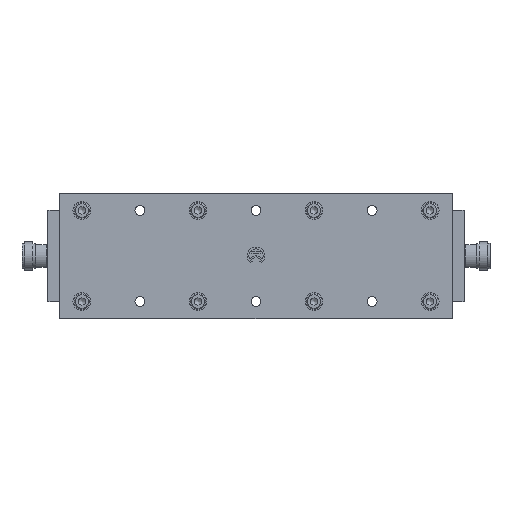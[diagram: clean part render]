
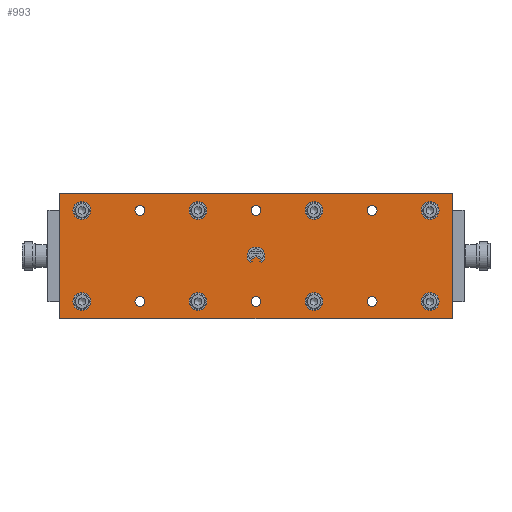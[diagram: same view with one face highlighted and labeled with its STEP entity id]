
A CAD part, top view. The second image highlights one B-rep face of the part: STEP entity #993.
In plain terms, the highlighted planar face has unit normal (0, 0, 1).
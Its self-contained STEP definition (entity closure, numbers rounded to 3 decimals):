
#993=ADVANCED_FACE('',(#2002,#2004,#2006,#2008,#2010,#2012,#2014,#2016,#2018,#2020,
#2022,#2024,#2026,#2028,#2030,#2032),#2034,.T.);
#2002=FACE_BOUND('',#2003,.T.);
#2003=EDGE_LOOP('',(#4047,#4048,#4049,#4050));
#2004=FACE_BOUND('',#2005,.T.);
#2005=EDGE_LOOP('',(#4051,#4052,#4053,#4054,#4055,#4056,#4057));
#2006=FACE_BOUND('',#2007,.T.);
#2007=EDGE_LOOP('',(#4058));
#2008=FACE_BOUND('',#2009,.T.);
#2009=EDGE_LOOP('',(#4059));
#2010=FACE_BOUND('',#2011,.T.);
#2011=EDGE_LOOP('',(#4060));
#2012=FACE_BOUND('',#2013,.T.);
#2013=EDGE_LOOP('',(#4061));
#2014=FACE_BOUND('',#2015,.T.);
#2015=EDGE_LOOP('',(#4062));
#2016=FACE_BOUND('',#2017,.T.);
#2017=EDGE_LOOP('',(#4063));
#2018=FACE_BOUND('',#2019,.T.);
#2019=EDGE_LOOP('',(#4064));
#2020=FACE_BOUND('',#2021,.T.);
#2021=EDGE_LOOP('',(#4065));
#2022=FACE_BOUND('',#2023,.T.);
#2023=EDGE_LOOP('',(#4066));
#2024=FACE_BOUND('',#2025,.T.);
#2025=EDGE_LOOP('',(#4067));
#2026=FACE_BOUND('',#2027,.T.);
#2027=EDGE_LOOP('',(#4068));
#2028=FACE_BOUND('',#2029,.T.);
#2029=EDGE_LOOP('',(#4069));
#2030=FACE_BOUND('',#2031,.T.);
#2031=EDGE_LOOP('',(#4070));
#2032=FACE_BOUND('',#2033,.T.);
#2033=EDGE_LOOP('',(#4071));
#2034=PLANE('',#2035);
#2035=AXIS2_PLACEMENT_3D('',#2036,#2037,#2038);
#2036=CARTESIAN_POINT('',(-35.,-110.,12.5));
#2037=DIRECTION('',(0.,0.,1.));
#2038=DIRECTION('',(1.,0.,0.));
#4047=ORIENTED_EDGE('',*,*,#4856,.F.);
#4048=ORIENTED_EDGE('',*,*,#4857,.T.);
#4049=ORIENTED_EDGE('',*,*,#4858,.T.);
#4050=ORIENTED_EDGE('',*,*,#4859,.F.);
#4051=ORIENTED_EDGE('',*,*,#4860,.T.);
#4052=ORIENTED_EDGE('',*,*,#4861,.T.);
#4053=ORIENTED_EDGE('',*,*,#4862,.T.);
#4054=ORIENTED_EDGE('',*,*,#4863,.T.);
#4055=ORIENTED_EDGE('',*,*,#4864,.T.);
#4056=ORIENTED_EDGE('',*,*,#4865,.T.);
#4057=ORIENTED_EDGE('',*,*,#4866,.T.);
#4058=ORIENTED_EDGE('',*,*,#4867,.T.);
#4059=ORIENTED_EDGE('',*,*,#4868,.T.);
#4060=ORIENTED_EDGE('',*,*,#4869,.T.);
#4061=ORIENTED_EDGE('',*,*,#4870,.T.);
#4062=ORIENTED_EDGE('',*,*,#4871,.T.);
#4063=ORIENTED_EDGE('',*,*,#4872,.T.);
#4064=ORIENTED_EDGE('',*,*,#4873,.T.);
#4065=ORIENTED_EDGE('',*,*,#4874,.T.);
#4066=ORIENTED_EDGE('',*,*,#4875,.T.);
#4067=ORIENTED_EDGE('',*,*,#4876,.T.);
#4068=ORIENTED_EDGE('',*,*,#4877,.T.);
#4069=ORIENTED_EDGE('',*,*,#4878,.T.);
#4070=ORIENTED_EDGE('',*,*,#4879,.T.);
#4071=ORIENTED_EDGE('',*,*,#4880,.T.);
#4856=EDGE_CURVE('',#5414,#5415,#5416,.T.);
#4857=EDGE_CURVE('',#5414,#5417,#5418,.T.);
#4858=EDGE_CURVE('',#5417,#5419,#5420,.T.);
#4859=EDGE_CURVE('',#5415,#5419,#5421,.T.);
#4860=EDGE_CURVE('',#5422,#5423,#5424,.F.);
#4861=EDGE_CURVE('',#5423,#5425,#5426,.F.);
#4862=EDGE_CURVE('',#5425,#5427,#5428,.F.);
#4863=EDGE_CURVE('',#5427,#5429,#5430,.F.);
#4864=EDGE_CURVE('',#5429,#5431,#5432,.F.);
#4865=EDGE_CURVE('',#5431,#5433,#5434,.F.);
#4866=EDGE_CURVE('',#5433,#5422,#5435,.F.);
#4867=EDGE_CURVE('',#5436,#5436,#5437,.F.);
#4868=EDGE_CURVE('',#5438,#5438,#5439,.F.);
#4869=EDGE_CURVE('',#5440,#5440,#5441,.F.);
#4870=EDGE_CURVE('',#5442,#5442,#5443,.F.);
#4871=EDGE_CURVE('',#5444,#5444,#5445,.F.);
#4872=EDGE_CURVE('',#5446,#5446,#5447,.F.);
#4873=EDGE_CURVE('',#5448,#5448,#5449,.F.);
#4874=EDGE_CURVE('',#5450,#5450,#5451,.F.);
#4875=EDGE_CURVE('',#5452,#5452,#5453,.F.);
#4876=EDGE_CURVE('',#5454,#5454,#5455,.F.);
#4877=EDGE_CURVE('',#5456,#5456,#5457,.F.);
#4878=EDGE_CURVE('',#5458,#5458,#5459,.F.);
#4879=EDGE_CURVE('',#5460,#5460,#5461,.F.);
#4880=EDGE_CURVE('',#5462,#5462,#5463,.F.);
#5414=VERTEX_POINT('',#6533);
#5415=VERTEX_POINT('',#6534);
#5416=LINE('',#6535,#6536);
#5417=VERTEX_POINT('',#6538);
#5418=LINE('',#6539,#6540);
#5419=VERTEX_POINT('',#6542);
#5420=LINE('',#6543,#6544);
#5421=LINE('',#6546,#6547);
#5422=VERTEX_POINT('',#6549);
#5423=VERTEX_POINT('',#6550);
#5424=CIRCLE('',#6551,4.);
#5425=VERTEX_POINT('',#6555);
#5426=LINE('',#6556,#6557);
#5427=VERTEX_POINT('',#6559);
#5428=CIRCLE('',#6560,5.);
#5429=VERTEX_POINT('',#6564);
#5430=LINE('',#6565,#6566);
#5431=VERTEX_POINT('',#6568);
#5432=CIRCLE('',#6569,4.);
#5433=VERTEX_POINT('',#6573);
#5434=LINE('',#6574,#6575);
#5435=LINE('',#6577,#6578);
#5436=VERTEX_POINT('',#6580);
#5437=CIRCLE('',#6581,5.);
#5438=VERTEX_POINT('',#6585);
#5439=CIRCLE('',#6586,5.);
#5440=VERTEX_POINT('',#6590);
#5441=CIRCLE('',#6591,5.);
#5442=VERTEX_POINT('',#6595);
#5443=CIRCLE('',#6596,5.);
#5444=VERTEX_POINT('',#6600);
#5445=CIRCLE('',#6601,5.);
#5446=VERTEX_POINT('',#6605);
#5447=CIRCLE('',#6606,5.);
#5448=VERTEX_POINT('',#6610);
#5449=CIRCLE('',#6611,5.);
#5450=VERTEX_POINT('',#6615);
#5451=CIRCLE('',#6616,5.);
#5452=VERTEX_POINT('',#6620);
#5453=CIRCLE('',#6621,2.75);
#5454=VERTEX_POINT('',#6625);
#5455=CIRCLE('',#6626,2.75);
#5456=VERTEX_POINT('',#6630);
#5457=CIRCLE('',#6631,2.75);
#5458=VERTEX_POINT('',#6635);
#5459=CIRCLE('',#6636,2.75);
#5460=VERTEX_POINT('',#6640);
#5461=CIRCLE('',#6641,2.75);
#5462=VERTEX_POINT('',#6645);
#5463=CIRCLE('',#6646,2.75);
#6533=CARTESIAN_POINT('',(-34.9,-109.9,12.5));
#6534=CARTESIAN_POINT('',(-34.9,109.9,12.5));
#6535=CARTESIAN_POINT('',(-34.9,-109.9,12.5));
#6536=VECTOR('',#6537,1.);
#6537=DIRECTION('',(0.,1.,0.));
#6538=CARTESIAN_POINT('',(34.9,-109.9,12.5));
#6539=CARTESIAN_POINT('',(-34.9,-109.9,12.5));
#6540=VECTOR('',#6541,1.);
#6541=DIRECTION('',(1.,0.,0.));
#6542=CARTESIAN_POINT('',(34.9,109.9,12.5));
#6543=CARTESIAN_POINT('',(34.9,-109.9,12.5));
#6544=VECTOR('',#6545,1.);
#6545=DIRECTION('',(0.,1.,0.));
#6546=CARTESIAN_POINT('',(-34.9,109.9,12.5));
#6547=VECTOR('',#6548,1.);
#6548=DIRECTION('',(1.,0.,0.));
#6549=CARTESIAN_POINT('',(-2.417,3.187,12.5));
#6550=CARTESIAN_POINT('',(-3.345,2.194,12.5));
#6551=AXIS2_PLACEMENT_3D('',#6552,#6553,#6554);
#6552=CARTESIAN_POINT('',(0.,0.,12.5));
#6553=DIRECTION('',(0.,0.,-1.));
#6554=DIRECTION('',(-0.836,0.548,0.));
#6555=CARTESIAN_POINT('',(-3.891,3.14,12.5));
#6556=CARTESIAN_POINT('',(-3.891,3.14,12.5));
#6557=VECTOR('',#6558,1.);
#6558=DIRECTION('',(0.5,-0.866,0.));
#6559=CARTESIAN_POINT('',(-3.891,-3.14,12.5));
#6560=AXIS2_PLACEMENT_3D('',#6561,#6562,#6563);
#6561=CARTESIAN_POINT('',(0.,0.,12.5));
#6562=DIRECTION('',(0.,0.,1.));
#6563=DIRECTION('',(-0.778,-0.628,0.));
#6564=CARTESIAN_POINT('',(-3.345,-2.194,12.5));
#6565=CARTESIAN_POINT('',(-3.345,-2.194,12.5));
#6566=VECTOR('',#6567,1.);
#6567=DIRECTION('',(-0.5,-0.866,0.));
#6568=CARTESIAN_POINT('',(-2.417,-3.187,12.5));
#6569=AXIS2_PLACEMENT_3D('',#6570,#6571,#6572);
#6570=CARTESIAN_POINT('',(0.,0.,12.5));
#6571=DIRECTION('',(0.,0.,-1.));
#6572=DIRECTION('',(-0.604,-0.797,0.));
#6573=CARTESIAN_POINT('',(-0.577,0.,12.5));
#6574=CARTESIAN_POINT('',(-0.577,0.,12.5));
#6575=VECTOR('',#6576,1.);
#6576=DIRECTION('',(-0.5,-0.866,0.));
#6577=CARTESIAN_POINT('',(-2.417,3.187,12.5));
#6578=VECTOR('',#6579,1.);
#6579=DIRECTION('',(0.5,-0.866,0.));
#6580=CARTESIAN_POINT('',(20.5,-97.5,12.5));
#6581=AXIS2_PLACEMENT_3D('',#6582,#6583,#6584);
#6582=CARTESIAN_POINT('',(25.5,-97.5,12.5));
#6583=DIRECTION('',(0.,0.,1.));
#6584=DIRECTION('',(-1.,0.,0.));
#6585=CARTESIAN_POINT('',(-30.5,-97.5,12.5));
#6586=AXIS2_PLACEMENT_3D('',#6587,#6588,#6589);
#6587=CARTESIAN_POINT('',(-25.5,-97.5,12.5));
#6588=DIRECTION('',(0.,0.,1.));
#6589=DIRECTION('',(-1.,0.,0.));
#6590=CARTESIAN_POINT('',(-30.5,-32.5,12.5));
#6591=AXIS2_PLACEMENT_3D('',#6592,#6593,#6594);
#6592=CARTESIAN_POINT('',(-25.5,-32.5,12.5));
#6593=DIRECTION('',(0.,0.,1.));
#6594=DIRECTION('',(-1.,0.,0.));
#6595=CARTESIAN_POINT('',(20.5,-32.5,12.5));
#6596=AXIS2_PLACEMENT_3D('',#6597,#6598,#6599);
#6597=CARTESIAN_POINT('',(25.5,-32.5,12.5));
#6598=DIRECTION('',(0.,0.,1.));
#6599=DIRECTION('',(-1.,0.,0.));
#6600=CARTESIAN_POINT('',(-30.5,32.5,12.5));
#6601=AXIS2_PLACEMENT_3D('',#6602,#6603,#6604);
#6602=CARTESIAN_POINT('',(-25.5,32.5,12.5));
#6603=DIRECTION('',(0.,0.,1.));
#6604=DIRECTION('',(-1.,0.,0.));
#6605=CARTESIAN_POINT('',(20.5,32.5,12.5));
#6606=AXIS2_PLACEMENT_3D('',#6607,#6608,#6609);
#6607=CARTESIAN_POINT('',(25.5,32.5,12.5));
#6608=DIRECTION('',(0.,0.,1.));
#6609=DIRECTION('',(-1.,0.,0.));
#6610=CARTESIAN_POINT('',(20.5,97.5,12.5));
#6611=AXIS2_PLACEMENT_3D('',#6612,#6613,#6614);
#6612=CARTESIAN_POINT('',(25.5,97.5,12.5));
#6613=DIRECTION('',(0.,0.,1.));
#6614=DIRECTION('',(-1.,0.,0.));
#6615=CARTESIAN_POINT('',(-30.5,97.5,12.5));
#6616=AXIS2_PLACEMENT_3D('',#6617,#6618,#6619);
#6617=CARTESIAN_POINT('',(-25.5,97.5,12.5));
#6618=DIRECTION('',(0.,0.,1.));
#6619=DIRECTION('',(-1.,0.,0.));
#6620=CARTESIAN_POINT('',(-28.25,65.,12.5));
#6621=AXIS2_PLACEMENT_3D('',#6622,#6623,#6624);
#6622=CARTESIAN_POINT('',(-25.5,65.,12.5));
#6623=DIRECTION('',(0.,0.,1.));
#6624=DIRECTION('',(-1.,0.,0.));
#6625=CARTESIAN_POINT('',(22.75,65.,12.5));
#6626=AXIS2_PLACEMENT_3D('',#6627,#6628,#6629);
#6627=CARTESIAN_POINT('',(25.5,65.,12.5));
#6628=DIRECTION('',(0.,0.,1.));
#6629=DIRECTION('',(-1.,0.,0.));
#6630=CARTESIAN_POINT('',(-28.25,0.,12.5));
#6631=AXIS2_PLACEMENT_3D('',#6632,#6633,#6634);
#6632=CARTESIAN_POINT('',(-25.5,0.,12.5));
#6633=DIRECTION('',(0.,0.,1.));
#6634=DIRECTION('',(-1.,0.,0.));
#6635=CARTESIAN_POINT('',(22.75,0.,12.5));
#6636=AXIS2_PLACEMENT_3D('',#6637,#6638,#6639);
#6637=CARTESIAN_POINT('',(25.5,0.,12.5));
#6638=DIRECTION('',(0.,0.,1.));
#6639=DIRECTION('',(-1.,0.,0.));
#6640=CARTESIAN_POINT('',(-28.25,-65.,12.5));
#6641=AXIS2_PLACEMENT_3D('',#6642,#6643,#6644);
#6642=CARTESIAN_POINT('',(-25.5,-65.,12.5));
#6643=DIRECTION('',(0.,0.,1.));
#6644=DIRECTION('',(-1.,0.,0.));
#6645=CARTESIAN_POINT('',(22.75,-65.,12.5));
#6646=AXIS2_PLACEMENT_3D('',#6647,#6648,#6649);
#6647=CARTESIAN_POINT('',(25.5,-65.,12.5));
#6648=DIRECTION('',(0.,0.,1.));
#6649=DIRECTION('',(-1.,0.,0.));
